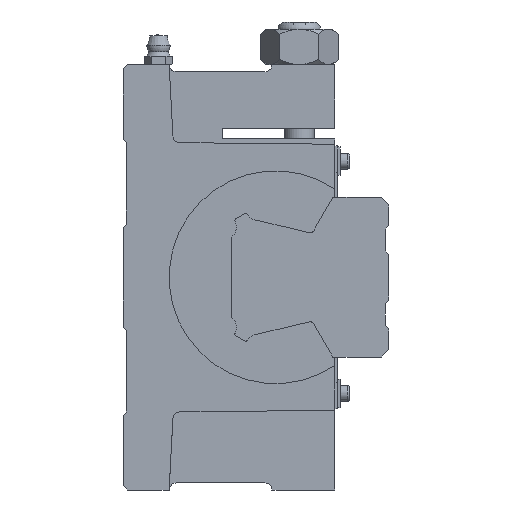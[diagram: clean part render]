
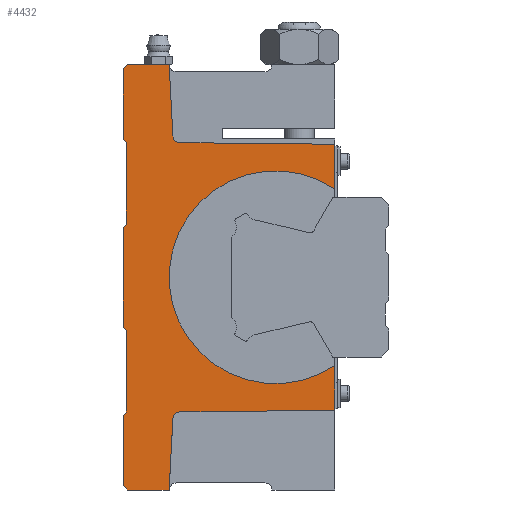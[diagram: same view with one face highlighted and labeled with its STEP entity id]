
A CAD part, left-side view. The second image highlights one B-rep face of the part: STEP entity #4432.
In plain terms, the highlighted planar face has unit normal (-1, 0, 0).
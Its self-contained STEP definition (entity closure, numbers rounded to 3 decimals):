
#293=CIRCLE('',#4787,2.);
#295=CIRCLE('',#4792,2.);
#305=CIRCLE('',#4827,30.);
#1020=ORIENTED_EDGE('',*,*,#2052,.F.);
#1021=ORIENTED_EDGE('',*,*,#1833,.F.);
#1022=ORIENTED_EDGE('',*,*,#1971,.F.);
#1023=ORIENTED_EDGE('',*,*,#1970,.T.);
#1024=ORIENTED_EDGE('',*,*,#1992,.F.);
#1025=ORIENTED_EDGE('',*,*,#1986,.F.);
#1026=ORIENTED_EDGE('',*,*,#1978,.F.);
#1027=ORIENTED_EDGE('',*,*,#2049,.F.);
#1028=ORIENTED_EDGE('',*,*,#2044,.F.);
#1029=ORIENTED_EDGE('',*,*,#2041,.F.);
#1030=ORIENTED_EDGE('',*,*,#2038,.F.);
#1031=ORIENTED_EDGE('',*,*,#2035,.F.);
#1032=ORIENTED_EDGE('',*,*,#2032,.F.);
#1033=ORIENTED_EDGE('',*,*,#2029,.F.);
#1034=ORIENTED_EDGE('',*,*,#2026,.F.);
#1035=ORIENTED_EDGE('',*,*,#2023,.F.);
#1036=ORIENTED_EDGE('',*,*,#2018,.F.);
#1037=ORIENTED_EDGE('',*,*,#2015,.F.);
#1038=ORIENTED_EDGE('',*,*,#2014,.F.);
#1039=ORIENTED_EDGE('',*,*,#1977,.T.);
#1040=ORIENTED_EDGE('',*,*,#1973,.F.);
#1041=ORIENTED_EDGE('',*,*,#1870,.F.);
#1833=EDGE_CURVE('',#2413,#2414,#2803,.T.);
#1870=EDGE_CURVE('',#2445,#2447,#2834,.T.);
#1970=EDGE_CURVE('',#2513,#2514,#293,.T.);
#1971=EDGE_CURVE('',#2513,#2413,#2914,.T.);
#1973=EDGE_CURVE('',#2447,#2516,#2916,.T.);
#1977=EDGE_CURVE('',#2518,#2516,#295,.T.);
#1978=EDGE_CURVE('',#2519,#2520,#2919,.T.);
#1986=EDGE_CURVE('',#2520,#2527,#2926,.T.);
#1992=EDGE_CURVE('',#2527,#2514,#2930,.T.);
#2014=EDGE_CURVE('',#2518,#2536,#2947,.T.);
#2015=EDGE_CURVE('',#2536,#2541,#2948,.T.);
#2018=EDGE_CURVE('',#2541,#2543,#2951,.T.);
#2023=EDGE_CURVE('',#2543,#2547,#2954,.T.);
#2026=EDGE_CURVE('',#2547,#2549,#2957,.T.);
#2029=EDGE_CURVE('',#2549,#2551,#2960,.T.);
#2032=EDGE_CURVE('',#2551,#2553,#2963,.T.);
#2035=EDGE_CURVE('',#2553,#2555,#2966,.T.);
#2038=EDGE_CURVE('',#2555,#2557,#2969,.T.);
#2041=EDGE_CURVE('',#2557,#2559,#2972,.T.);
#2044=EDGE_CURVE('',#2559,#2561,#2975,.T.);
#2049=EDGE_CURVE('',#2561,#2519,#2978,.T.);
#2052=EDGE_CURVE('',#2414,#2445,#305,.F.);
#2413=VERTEX_POINT('',#6775);
#2414=VERTEX_POINT('',#6777);
#2445=VERTEX_POINT('',#6847);
#2447=VERTEX_POINT('',#6850);
#2513=VERTEX_POINT('',#7039);
#2514=VERTEX_POINT('',#7041);
#2516=VERTEX_POINT('',#7049);
#2518=VERTEX_POINT('',#7054);
#2519=VERTEX_POINT('',#7059);
#2520=VERTEX_POINT('',#7060);
#2527=VERTEX_POINT('',#7076);
#2536=VERTEX_POINT('',#7110);
#2541=VERTEX_POINT('',#7126);
#2543=VERTEX_POINT('',#7132);
#2547=VERTEX_POINT('',#7142);
#2549=VERTEX_POINT('',#7148);
#2551=VERTEX_POINT('',#7154);
#2553=VERTEX_POINT('',#7160);
#2555=VERTEX_POINT('',#7166);
#2557=VERTEX_POINT('',#7172);
#2559=VERTEX_POINT('',#7178);
#2561=VERTEX_POINT('',#7184);
#2803=LINE('',#6776,#3203);
#2834=LINE('',#6849,#3234);
#2914=LINE('',#7044,#3314);
#2916=LINE('',#7048,#3316);
#2919=LINE('',#7058,#3319);
#2926=LINE('',#7075,#3326);
#2930=LINE('',#7084,#3330);
#2947=LINE('',#7123,#3347);
#2948=LINE('',#7125,#3348);
#2951=LINE('',#7131,#3351);
#2954=LINE('',#7141,#3354);
#2957=LINE('',#7147,#3357);
#2960=LINE('',#7153,#3360);
#2963=LINE('',#7159,#3363);
#2966=LINE('',#7165,#3366);
#2969=LINE('',#7171,#3369);
#2972=LINE('',#7177,#3372);
#2975=LINE('',#7183,#3375);
#2978=LINE('',#7193,#3378);
#3203=VECTOR('',#5425,1000.);
#3234=VECTOR('',#5474,1000.);
#3314=VECTOR('',#5648,1000.);
#3316=VECTOR('',#5652,1000.);
#3319=VECTOR('',#5663,1000.);
#3326=VECTOR('',#5674,1000.);
#3330=VECTOR('',#5684,1000.);
#3347=VECTOR('',#5721,1000.);
#3348=VECTOR('',#5724,1000.);
#3351=VECTOR('',#5729,1000.);
#3354=VECTOR('',#5738,1000.);
#3357=VECTOR('',#5743,1000.);
#3360=VECTOR('',#5748,1000.);
#3363=VECTOR('',#5753,1000.);
#3366=VECTOR('',#5758,1000.);
#3369=VECTOR('',#5763,1000.);
#3372=VECTOR('',#5768,1000.);
#3375=VECTOR('',#5773,1000.);
#3378=VECTOR('',#5782,1000.);
#3642=EDGE_LOOP('',(#1020,#1021,#1022,#1023,#1024,#1025,#1026,#1027,#1028,
#1029,#1030,#1031,#1032,#1033,#1034,#1035,#1036,#1037,#1038,#1039,#1040,
#1041));
#3974=FACE_BOUND('',#3642,.T.);
#4222=PLANE('',#4826);
#4432=ADVANCED_FACE('',(#3974),#4222,.F.);
#4787=AXIS2_PLACEMENT_3D('',#7042,#5644,#5645);
#4792=AXIS2_PLACEMENT_3D('',#7056,#5659,#5660);
#4826=AXIS2_PLACEMENT_3D('',#7197,#5788,#5789);
#4827=AXIS2_PLACEMENT_3D('',#7198,#5790,#5791);
#5425=DIRECTION('',(0.,0.,-1.));
#5474=DIRECTION('',(0.,0.,-1.));
#5644=DIRECTION('',(1.,0.,0.));
#5645=DIRECTION('',(0.,0.,-1.));
#5648=DIRECTION('',(0.,-1.,-0.01));
#5652=DIRECTION('',(0.,1.,-0.01));
#5659=DIRECTION('',(1.,0.,0.));
#5660=DIRECTION('',(0.,0.,-1.));
#5663=DIRECTION('',(0.,-0.707,0.707));
#5674=DIRECTION('',(0.,-1.,0.));
#5684=DIRECTION('',(0.,-0.052,-0.999));
#5721=DIRECTION('',(0.,0.052,-0.999));
#5724=DIRECTION('',(0.,1.,0.));
#5729=DIRECTION('',(0.,0.707,0.707));
#5738=DIRECTION('',(0.,0.,1.));
#5743=DIRECTION('',(0.,-0.707,0.707));
#5748=DIRECTION('',(0.,0.,1.));
#5753=DIRECTION('',(0.,0.707,0.707));
#5758=DIRECTION('',(0.,0.,1.));
#5763=DIRECTION('',(0.,-0.707,0.707));
#5768=DIRECTION('',(0.,0.,1.));
#5773=DIRECTION('',(0.,0.707,0.707));
#5782=DIRECTION('',(0.,0.,1.));
#5788=DIRECTION('',(1.,0.,0.));
#5789=DIRECTION('',(0.,0.,-1.));
#5790=DIRECTION('',(1.,0.,0.));
#5791=DIRECTION('',(0.,0.,-1.));
#6775=CARTESIAN_POINT('',(-55.,4.3,37.524));
#6776=CARTESIAN_POINT('',(-55.,4.3,37.524));
#6777=CARTESIAN_POINT('',(-55.,4.3,24.922));
#6847=CARTESIAN_POINT('',(-55.,4.3,-24.922));
#6849=CARTESIAN_POINT('',(-55.,4.3,37.524));
#6850=CARTESIAN_POINT('',(-55.,4.3,-37.524));
#7039=CARTESIAN_POINT('',(-55.,47.967,37.969));
#7041=CARTESIAN_POINT('',(-55.,49.944,39.864));
#7042=CARTESIAN_POINT('',(-55.,47.947,39.969));
#7044=CARTESIAN_POINT('',(-55.,47.967,37.969));
#7048=CARTESIAN_POINT('',(-55.,4.3,-37.524));
#7049=CARTESIAN_POINT('',(-55.,47.967,-37.969));
#7054=CARTESIAN_POINT('',(-55.,49.944,-39.864));
#7056=CARTESIAN_POINT('',(-55.,47.947,-39.969));
#7058=CARTESIAN_POINT('',(-55.,64.,58.8));
#7059=CARTESIAN_POINT('',(-55.,64.,58.8));
#7060=CARTESIAN_POINT('',(-55.,62.8,60.));
#7075=CARTESIAN_POINT('',(-55.,62.8,60.));
#7076=CARTESIAN_POINT('',(-55.,51.,60.));
#7084=CARTESIAN_POINT('',(-55.,51.,60.));
#7110=CARTESIAN_POINT('',(-55.,51.,-60.));
#7123=CARTESIAN_POINT('',(-55.,49.944,-39.864));
#7125=CARTESIAN_POINT('',(-55.,51.,-60.));
#7126=CARTESIAN_POINT('',(-55.,62.8,-60.));
#7131=CARTESIAN_POINT('',(-55.,62.8,-60.));
#7132=CARTESIAN_POINT('',(-55.,64.,-58.8));
#7141=CARTESIAN_POINT('',(-55.,64.,-58.8));
#7142=CARTESIAN_POINT('',(-55.,64.,-38.9));
#7147=CARTESIAN_POINT('',(-55.,64.,-38.9));
#7148=CARTESIAN_POINT('',(-55.,63.1,-38.));
#7153=CARTESIAN_POINT('',(-55.,63.1,-38.));
#7154=CARTESIAN_POINT('',(-55.,63.1,-15.));
#7159=CARTESIAN_POINT('',(-55.,63.1,-15.));
#7160=CARTESIAN_POINT('',(-55.,64.,-14.1));
#7165=CARTESIAN_POINT('',(-55.,64.,-14.1));
#7166=CARTESIAN_POINT('',(-55.,64.,14.1));
#7171=CARTESIAN_POINT('',(-55.,64.,14.1));
#7172=CARTESIAN_POINT('',(-55.,63.1,15.));
#7177=CARTESIAN_POINT('',(-55.,63.1,15.));
#7178=CARTESIAN_POINT('',(-55.,63.1,38.));
#7183=CARTESIAN_POINT('',(-55.,63.1,38.));
#7184=CARTESIAN_POINT('',(-55.,64.,38.9));
#7193=CARTESIAN_POINT('',(-55.,64.,38.9));
#7197=CARTESIAN_POINT('',(-55.,47.947,39.969));
#7198=CARTESIAN_POINT('',(-55.,21.,0.));
